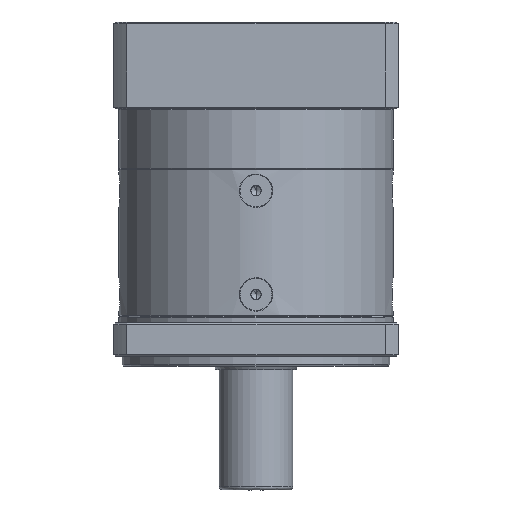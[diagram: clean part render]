
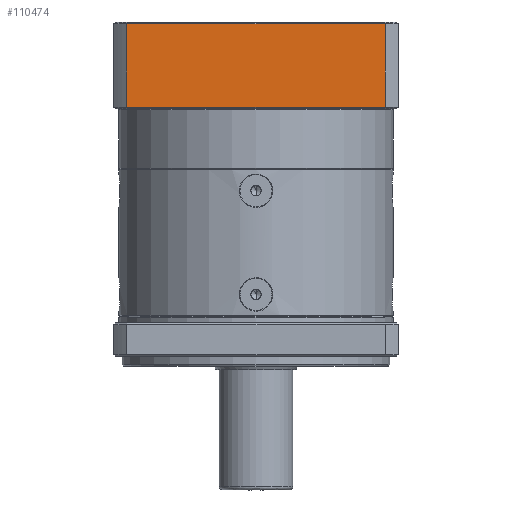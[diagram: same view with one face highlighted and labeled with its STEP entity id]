
A CAD part, front view. The second image highlights one B-rep face of the part: STEP entity #110474.
In plain terms, the highlighted planar face has unit normal (0, -1, 0).
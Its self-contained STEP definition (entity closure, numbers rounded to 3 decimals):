
#3525 = PLANE ( 'NONE',  #14848 ) ;
#8916 = VECTOR ( 'NONE', #75661, 1000. ) ;
#14848 = AXIS2_PLACEMENT_3D ( 'NONE', #39717, #102704, #48762 ) ;
#22886 = CARTESIAN_POINT ( 'NONE',  ( -48.756, -8.696, -3.8 ) ) ;
#23260 = ORIENTED_EDGE ( 'NONE', *, *, #68080, .T. ) ;
#27192 = EDGE_LOOP ( 'NONE', ( #23260, #47222, #50009, #106369 ) ) ;
#30751 = EDGE_CURVE ( 'NONE', #66215, #98103, #50101, .T. ) ;
#31942 = DIRECTION ( 'NONE',  ( 1., 0., 0. ) ) ;
#35648 = LINE ( 'NONE', #66647, #8916 ) ;
#38528 = VECTOR ( 'NONE', #95551, 1000. ) ;
#39717 = CARTESIAN_POINT ( 'NONE',  ( -48.756, -8.696, 21.7 ) ) ;
#41586 = CARTESIAN_POINT ( 'NONE',  ( -48.756, -8.696, 21.7 ) ) ;
#41671 = VECTOR ( 'NONE', #95918, 1000. ) ;
#43732 = CARTESIAN_POINT ( 'NONE',  ( -126.216, -8.696, -3.8 ) ) ;
#47222 = ORIENTED_EDGE ( 'NONE', *, *, #30751, .F. ) ;
#48762 = DIRECTION ( 'NONE',  ( -1., 0., 0. ) ) ;
#48853 = LINE ( 'NONE', #22886, #51671 ) ;
#50009 = ORIENTED_EDGE ( 'NONE', *, *, #99950, .F. ) ;
#50101 = LINE ( 'NONE', #41586, #41671 ) ;
#50686 = VERTEX_POINT ( 'NONE', #103380 ) ;
#51671 = VECTOR ( 'NONE', #31942, 1000. ) ;
#59604 = CARTESIAN_POINT ( 'NONE',  ( -48.756, -8.696, 21.2 ) ) ;
#64956 = VERTEX_POINT ( 'NONE', #43732 ) ;
#66215 = VERTEX_POINT ( 'NONE', #59604 ) ;
#66647 = CARTESIAN_POINT ( 'NONE',  ( -48.756, -8.696, 21.2 ) ) ;
#68080 = EDGE_CURVE ( 'NONE', #64956, #98103, #48853, .T. ) ;
#69501 = CARTESIAN_POINT ( 'NONE',  ( -126.216, -8.696, 21.7 ) ) ;
#75661 = DIRECTION ( 'NONE',  ( 1., 0., 0. ) ) ;
#83383 = EDGE_CURVE ( 'NONE', #64956, #50686, #107520, .T. ) ;
#86826 = CARTESIAN_POINT ( 'NONE',  ( -48.756, -8.696, -3.8 ) ) ;
#95551 = DIRECTION ( 'NONE',  ( 0., 0., 1. ) ) ;
#95918 = DIRECTION ( 'NONE',  ( 0., 0., -1. ) ) ;
#98103 = VERTEX_POINT ( 'NONE', #86826 ) ;
#99950 = EDGE_CURVE ( 'NONE', #50686, #66215, #35648, .T. ) ;
#102704 = DIRECTION ( 'NONE',  ( 0., 1., 0. ) ) ;
#103380 = CARTESIAN_POINT ( 'NONE',  ( -126.216, -8.696, 21.2 ) ) ;
#105239 = FACE_OUTER_BOUND ( 'NONE', #27192, .T. ) ;
#106369 = ORIENTED_EDGE ( 'NONE', *, *, #83383, .F. ) ;
#107520 = LINE ( 'NONE', #69501, #38528 ) ;
#110474 = ADVANCED_FACE ( 'NONE', ( #105239 ), #3525, .F. ) ;
